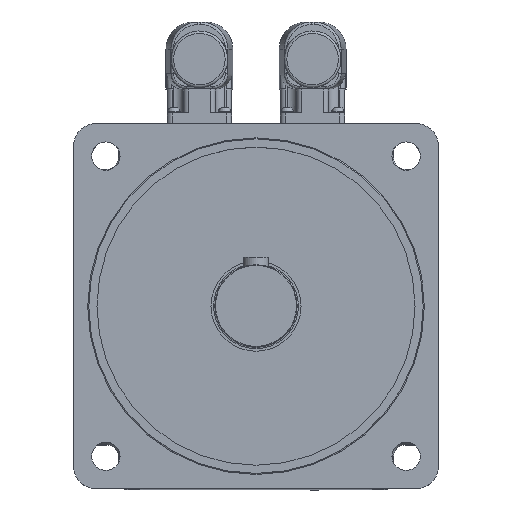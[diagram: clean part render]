
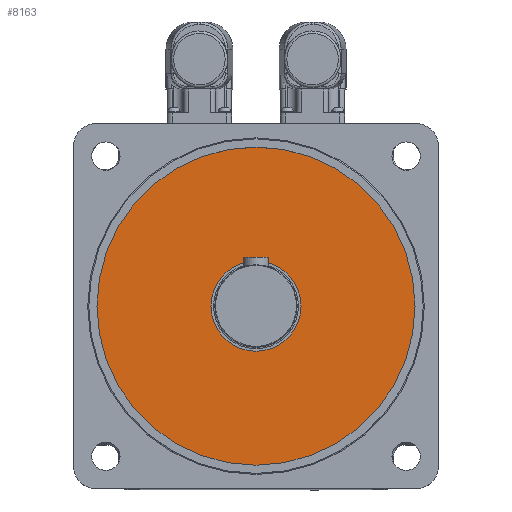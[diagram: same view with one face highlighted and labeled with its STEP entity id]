
A CAD part, top view. The second image highlights one B-rep face of the part: STEP entity #8163.
In plain terms, the highlighted planar face has unit normal (0, 0, 1).
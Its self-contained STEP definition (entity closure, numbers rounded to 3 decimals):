
#8136=CARTESIAN_POINT('',(0.0,0.0,-0.5));
#8137=DIRECTION('',(0.0,0.0,-1.0));
#8138=DIRECTION('',(-1.0,0.0,0.0));
#8139=AXIS2_PLACEMENT_3D('',#8136,#8137,#8138);
#8140=PLANE('',#8139);
#8141=CARTESIAN_POINT('',(61.818,0.,-0.5));
#8142=VERTEX_POINT('',#8141);
#8143=CARTESIAN_POINT('',(0.0,0.0,-0.5));
#8144=DIRECTION('',(0.0,0.0,1.0));
#8145=DIRECTION('',(-1.0,0.0,0.0));
#8146=AXIS2_PLACEMENT_3D('',#8143,#8144,#8145);
#8147=CIRCLE('',#8146,61.818);
#8148=EDGE_CURVE('',#8142,#8142,#8147,.T.);
#8149=ORIENTED_EDGE('',*,*,#8148,.T.);
#8150=EDGE_LOOP('',(#8149));
#8151=FACE_OUTER_BOUND('',#8150,.T.);
#8152=CARTESIAN_POINT('',(0.0,17.5,-0.5));
#8153=VERTEX_POINT('',#8152);
#8154=CARTESIAN_POINT('',(0.0,0.,-0.5));
#8155=DIRECTION('',(0.0,0.0,-1.0));
#8156=DIRECTION('',(0.0,1.0,0.0));
#8157=AXIS2_PLACEMENT_3D('',#8154,#8155,#8156);
#8158=CIRCLE('',#8157,17.5);
#8159=EDGE_CURVE('',#8153,#8153,#8158,.T.);
#8160=ORIENTED_EDGE('',*,*,#8159,.T.);
#8161=EDGE_LOOP('',(#8160));
#8162=FACE_BOUND('',#8161,.T.);
#8163=ADVANCED_FACE('',(#8151,#8162),#8140,.F.);
